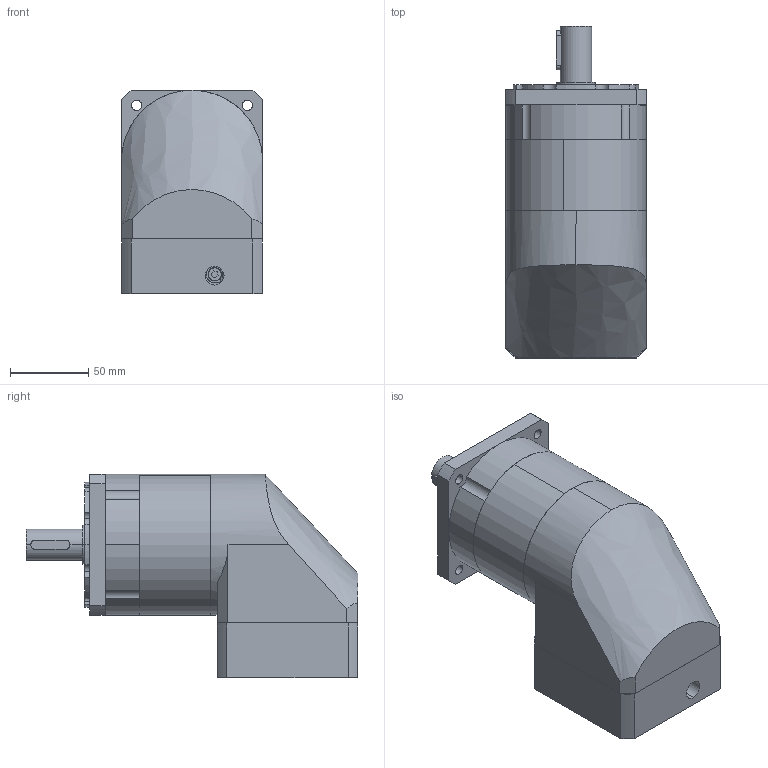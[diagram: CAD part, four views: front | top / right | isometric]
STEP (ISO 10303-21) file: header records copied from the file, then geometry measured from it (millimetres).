
FILE_DESCRIPTION (( 'STEP AP214' ), '1' );
FILE_NAME ('PFR090-L2-S2-P2 19-70-90-M6.STEP', '2023-08-26T05:48:26', ( '微软用户' ), ( '微软中国' ), 'SwSTEP 2.0', 'SolidWorks 2018', '' );
FILE_SCHEMA (( 'AUTOMOTIVE_DESIGN' ));
Length unit declared in the file: millimetre
Products named in the file (9): M5 x 20; PFR090-薊粣ん; 邧埴瑩 6x6x25; PFR090-L2-S2-P2 19-70-90-M6; PFR090-蟀諉啣; PFR090 奻屳唳_梓袧; PFR090 眊极_揤翉; 粣創-3206A 30x62x23.8_2; PFR090 內齿圈-优化_二级内齿圈
Assembly tree (8 placements, depth 2):
  PFR090-L2-S2-P2 19-70-90-M6
    PFR090 眊极_揤翉
    PFR090 內齿圈-优化_二级内齿圈
    PFR090 奻屳唳_梓袧
    PFR090-蟀諉啣
    PFR090-薊粣ん
    M5 x 20
    粣創-3206A 30x62x23.8_2
    邧埴瑩 6x6x25
Bounding box: 90 x 212 x 130 mm (x, y, z)
Volume: 1242016 mm3; surface area: 193478.8 mm2
Topology: 8 solids, 8 shells, 605 faces, 1695 edges, 1106 vertices
Faces by surface type: cylinder 236, plane 208, bspline 139, cone 22
Entity records: 30401 total; most frequent: CARTESIAN_POINT 8468, ORIENTED_EDGE 3366, DIRECTION 2966, EDGE_CURVE 1683, AXIS2_PLACEMENT_3D 1172, VERTEX_POINT 1106, CIRCLE 695, EDGE_LOOP 693
